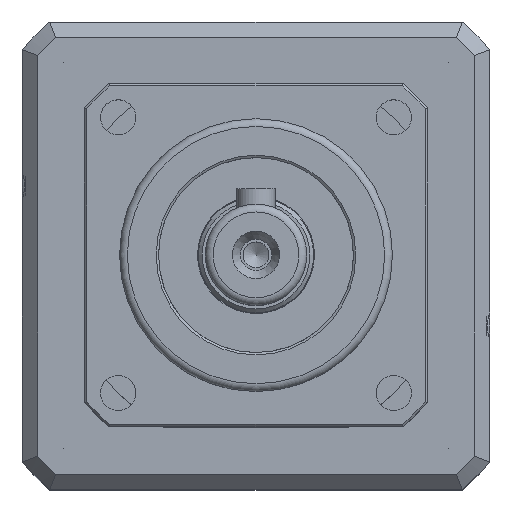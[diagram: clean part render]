
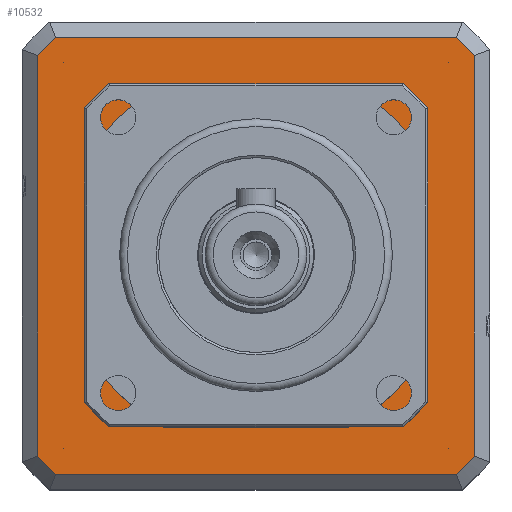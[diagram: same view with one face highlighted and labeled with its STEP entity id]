
A CAD part, top view. The second image highlights one B-rep face of the part: STEP entity #10532.
In plain terms, the highlighted planar face has unit normal (0, 0, 1).
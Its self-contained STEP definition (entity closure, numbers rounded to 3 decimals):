
#10387=CARTESIAN_POINT('',(-30.,-30.,-53.5));
#10388=DIRECTION('',(0.0,0.0,1.0));
#10389=DIRECTION('',(1.0,0.0,0.0));
#10390=AXIS2_PLACEMENT_3D('',#10387,#10388,#10389);
#10391=PLANE('',#10390);
#10392=CARTESIAN_POINT('',(25.69,28.,-53.5));
#10393=VERTEX_POINT('',#10392);
#10394=CARTESIAN_POINT('',(-25.69,28.,-53.5));
#10395=VERTEX_POINT('',#10394);
#10396=CARTESIAN_POINT('',(25.69,28.,-53.5));
#10397=DIRECTION('',(-1.0,0.0,0.0));
#10398=VECTOR('',#10397,51.381);
#10399=LINE('',#10396,#10398);
#10400=EDGE_CURVE('',#10393,#10395,#10399,.T.);
#10401=ORIENTED_EDGE('',*,*,#10400,.T.);
#10402=CARTESIAN_POINT('',(-28.,25.69,-53.5));
#10403=VERTEX_POINT('',#10402);
#10404=CARTESIAN_POINT('',(0.,0.,-53.5));
#10405=DIRECTION('',(0.0,0.0,1.0));
#10406=DIRECTION('',(1.0,0.0,0.0));
#10407=AXIS2_PLACEMENT_3D('',#10404,#10405,#10406);
#10408=CIRCLE('',#10407,38.);
#10409=EDGE_CURVE('',#10395,#10403,#10408,.T.);
#10410=ORIENTED_EDGE('',*,*,#10409,.T.);
#10411=CARTESIAN_POINT('',(-28.,-25.69,-53.5));
#10412=VERTEX_POINT('',#10411);
#10413=CARTESIAN_POINT('',(-28.,25.69,-53.5));
#10414=DIRECTION('',(0.0,-1.0,0.0));
#10415=VECTOR('',#10414,51.381);
#10416=LINE('',#10413,#10415);
#10417=EDGE_CURVE('',#10403,#10412,#10416,.T.);
#10418=ORIENTED_EDGE('',*,*,#10417,.T.);
#10419=CARTESIAN_POINT('',(-25.69,-28.,-53.5));
#10420=VERTEX_POINT('',#10419);
#10421=CARTESIAN_POINT('',(0.,0.,-53.5));
#10422=DIRECTION('',(0.0,0.0,1.0));
#10423=DIRECTION('',(1.0,0.0,0.0));
#10424=AXIS2_PLACEMENT_3D('',#10421,#10422,#10423);
#10425=CIRCLE('',#10424,38.);
#10426=EDGE_CURVE('',#10412,#10420,#10425,.T.);
#10427=ORIENTED_EDGE('',*,*,#10426,.T.);
#10428=CARTESIAN_POINT('',(25.69,-28.,-53.5));
#10429=VERTEX_POINT('',#10428);
#10430=CARTESIAN_POINT('',(-25.69,-28.,-53.5));
#10431=DIRECTION('',(1.0,0.0,0.0));
#10432=VECTOR('',#10431,51.381);
#10433=LINE('',#10430,#10432);
#10434=EDGE_CURVE('',#10420,#10429,#10433,.T.);
#10435=ORIENTED_EDGE('',*,*,#10434,.T.);
#10436=CARTESIAN_POINT('',(28.,-25.69,-53.5));
#10437=VERTEX_POINT('',#10436);
#10438=CARTESIAN_POINT('',(0.,0.,-53.5));
#10439=DIRECTION('',(0.0,0.0,1.0));
#10440=DIRECTION('',(1.0,0.0,0.0));
#10441=AXIS2_PLACEMENT_3D('',#10438,#10439,#10440);
#10442=CIRCLE('',#10441,38.);
#10443=EDGE_CURVE('',#10429,#10437,#10442,.T.);
#10444=ORIENTED_EDGE('',*,*,#10443,.T.);
#10445=CARTESIAN_POINT('',(28.,25.69,-53.5));
#10446=VERTEX_POINT('',#10445);
#10447=CARTESIAN_POINT('',(28.,-25.69,-53.5));
#10448=DIRECTION('',(0.0,1.0,0.0));
#10449=VECTOR('',#10448,51.381);
#10450=LINE('',#10447,#10449);
#10451=EDGE_CURVE('',#10437,#10446,#10450,.T.);
#10452=ORIENTED_EDGE('',*,*,#10451,.T.);
#10453=CARTESIAN_POINT('',(0.,0.,-53.5));
#10454=DIRECTION('',(0.0,0.0,1.0));
#10455=DIRECTION('',(1.0,0.0,0.0));
#10456=AXIS2_PLACEMENT_3D('',#10453,#10454,#10455);
#10457=CIRCLE('',#10456,38.);
#10458=EDGE_CURVE('',#10446,#10393,#10457,.T.);
#10459=ORIENTED_EDGE('',*,*,#10458,.T.);
#10460=EDGE_LOOP('',(#10401,#10410,#10418,#10427,#10435,#10444,#10452,#10459));
#10461=FACE_OUTER_BOUND('',#10460,.T.);
#10462=CARTESIAN_POINT('',(-22.,11.874,-53.5));
#10463=VERTEX_POINT('',#10462);
#10464=CARTESIAN_POINT('',(-22.,-11.874,-53.5));
#10465=VERTEX_POINT('',#10464);
#10466=CARTESIAN_POINT('',(-22.,11.874,-53.5));
#10467=DIRECTION('',(0.0,-1.0,0.0));
#10468=VECTOR('',#10467,23.749);
#10469=LINE('',#10466,#10468);
#10470=EDGE_CURVE('',#10463,#10465,#10469,.T.);
#10471=ORIENTED_EDGE('',*,*,#10470,.F.);
#10472=CARTESIAN_POINT('',(-11.874,22.,-53.5));
#10473=VERTEX_POINT('',#10472);
#10474=CARTESIAN_POINT('',(0.,0.,-53.5));
#10475=DIRECTION('',(0.0,0.0,1.0));
#10476=DIRECTION('',(1.0,0.0,0.0));
#10477=AXIS2_PLACEMENT_3D('',#10474,#10475,#10476);
#10478=CIRCLE('',#10477,25.);
#10479=EDGE_CURVE('',#10473,#10463,#10478,.T.);
#10480=ORIENTED_EDGE('',*,*,#10479,.F.);
#10481=CARTESIAN_POINT('',(11.874,22.,-53.5));
#10482=VERTEX_POINT('',#10481);
#10483=CARTESIAN_POINT('',(11.874,22.,-53.5));
#10484=DIRECTION('',(-1.0,0.0,0.0));
#10485=VECTOR('',#10484,23.749);
#10486=LINE('',#10483,#10485);
#10487=EDGE_CURVE('',#10482,#10473,#10486,.T.);
#10488=ORIENTED_EDGE('',*,*,#10487,.F.);
#10489=CARTESIAN_POINT('',(22.,11.874,-53.5));
#10490=VERTEX_POINT('',#10489);
#10491=CARTESIAN_POINT('',(0.,0.,-53.5));
#10492=DIRECTION('',(0.0,0.0,1.0));
#10493=DIRECTION('',(1.0,0.0,0.0));
#10494=AXIS2_PLACEMENT_3D('',#10491,#10492,#10493);
#10495=CIRCLE('',#10494,25.);
#10496=EDGE_CURVE('',#10490,#10482,#10495,.T.);
#10497=ORIENTED_EDGE('',*,*,#10496,.F.);
#10498=CARTESIAN_POINT('',(22.,-11.874,-53.5));
#10499=VERTEX_POINT('',#10498);
#10500=CARTESIAN_POINT('',(22.,-11.874,-53.5));
#10501=DIRECTION('',(0.0,1.0,0.0));
#10502=VECTOR('',#10501,23.749);
#10503=LINE('',#10500,#10502);
#10504=EDGE_CURVE('',#10499,#10490,#10503,.T.);
#10505=ORIENTED_EDGE('',*,*,#10504,.F.);
#10506=CARTESIAN_POINT('',(11.874,-22.,-53.5));
#10507=VERTEX_POINT('',#10506);
#10508=CARTESIAN_POINT('',(0.,0.,-53.5));
#10509=DIRECTION('',(0.0,0.0,1.0));
#10510=DIRECTION('',(1.0,0.0,0.0));
#10511=AXIS2_PLACEMENT_3D('',#10508,#10509,#10510);
#10512=CIRCLE('',#10511,25.);
#10513=EDGE_CURVE('',#10507,#10499,#10512,.T.);
#10514=ORIENTED_EDGE('',*,*,#10513,.F.);
#10515=CARTESIAN_POINT('',(-11.874,-22.,-53.5));
#10516=VERTEX_POINT('',#10515);
#10517=CARTESIAN_POINT('',(-11.874,-22.,-53.5));
#10518=DIRECTION('',(1.0,0.0,0.0));
#10519=VECTOR('',#10518,23.749);
#10520=LINE('',#10517,#10519);
#10521=EDGE_CURVE('',#10516,#10507,#10520,.T.);
#10522=ORIENTED_EDGE('',*,*,#10521,.F.);
#10523=CARTESIAN_POINT('',(0.,0.,-53.5));
#10524=DIRECTION('',(0.0,0.0,1.0));
#10525=DIRECTION('',(1.0,0.0,0.0));
#10526=AXIS2_PLACEMENT_3D('',#10523,#10524,#10525);
#10527=CIRCLE('',#10526,25.);
#10528=EDGE_CURVE('',#10465,#10516,#10527,.T.);
#10529=ORIENTED_EDGE('',*,*,#10528,.F.);
#10530=EDGE_LOOP('',(#10471,#10480,#10488,#10497,#10505,#10514,#10522,#10529));
#10531=FACE_BOUND('',#10530,.T.);
#10532=ADVANCED_FACE('',(#10461,#10531),#10391,.T.);
